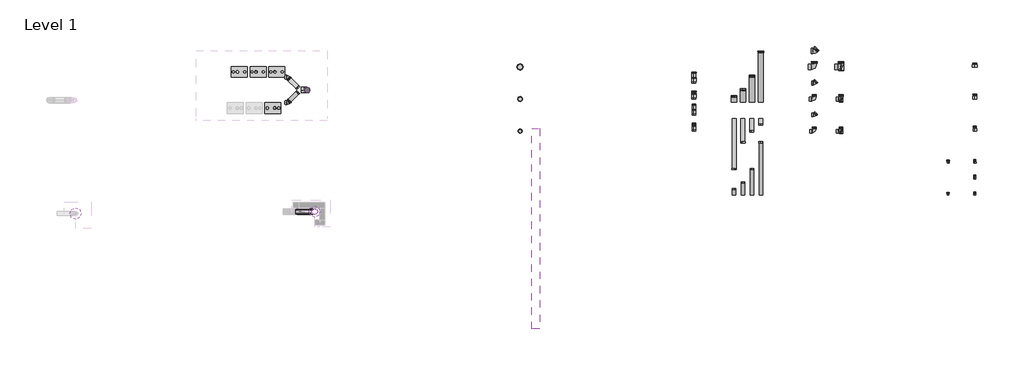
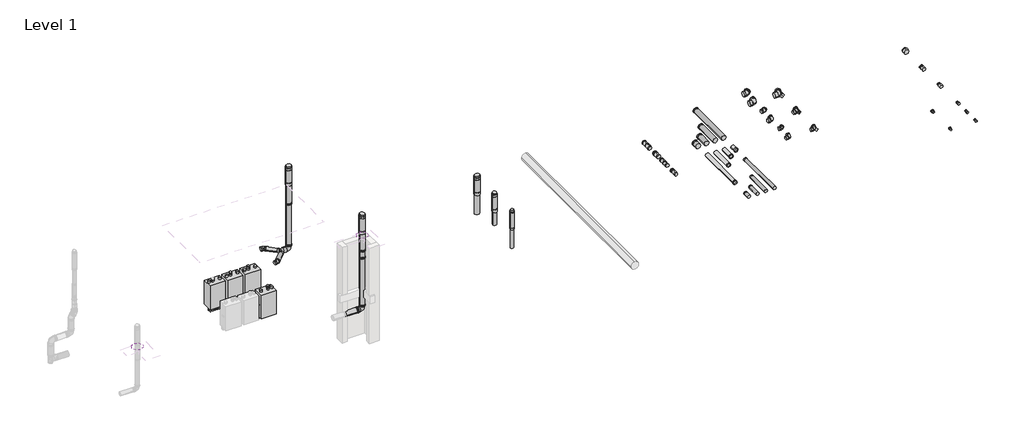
# One storey, part 2 of 2: 43 duct fittings, 5 air terminals, 4 duct segments, 4 unitary equipment elements, 2 coverings.
"""IFC4 building model written with IfcOpenShell, lengths in millimetres."""

from ifc_helpers import new_model, si_unit, point, frame, frame_2d, origin, place, context, project, spatial, circle_curve, ellipse_curve, trimmed, segment, composite_curve, outline, extrude, transform, mapped, element, save
from ifc_brep_helpers import plane_surface, cylinder_surface, advanced_brep
from components import air_terminal_c4a1c7fc, air_terminal_16127070, air_terminal_aa595a08, air_terminal_d551fddf, covering_b4739faa, covering_65d68dae, duct_fitting_874dda1b, duct_fitting_8a0d83d2, duct_fitting_533d9af2, duct_fitting_b8df35ce, duct_fitting_8dfe7da2, duct_fitting_345853f5, duct_fitting_ab07d6e0, duct_fitting_0e4c7d32, duct_fitting_3590a55b, duct_fitting_fbf5378a, duct_fitting_61e90ce6, duct_fitting_113a3a52, duct_fitting_7c9a1def, duct_fitting_1957377e, duct_fitting_2b33db09, duct_fitting_de41c6b8, duct_fitting_32ee2810, duct_fitting_5c795bad, duct_fitting_2964ce86, duct_fitting_6345bc61, duct_fitting_84fb14a7, duct_fitting_6d300570, duct_fitting_58c5740b, duct_fitting_590bbebe, duct_fitting_acd04bb9, duct_fitting_d5854984, duct_fitting_9444e74b, duct_fitting_ad141df4, duct_fitting_7f7e895c, duct_fitting_6e9e7a38, duct_fitting_632ce2a9, duct_fitting_e9746d7f, duct_fitting_a8be000e, duct_fitting_9e2eeb5f, duct_fitting_29f06fc0, duct_fitting_274715c7, duct_fitting_88745d1b, duct_fitting_c2fbb5bf, type_1_50a8d933

model = new_model("IFC4")

# Units and contexts
model_context = context("Model", 3, world=origin())
ifc_project = project(units=[si_unit("LENGTHUNIT", "METRE", prefix="MILLI")], contexts=[model_context])

# Site, building, storey
site = spatial("IfcSite", under=ifc_project)
building = spatial("IfcBuilding", under=site)
storey = spatial("IfcBuildingStorey", under=building, Name="Level 1", Elevation=0.0)

# Air terminals
placement = place(None, origin())
air_terminal_shape = air_terminal_c4a1c7fc(model_context)
element("IfcAirTerminal", 1, ObjectType="RSFen_AIR_WPB_flue gas rooftop terminal_M&G : PP Black, ø130", at=placement, inside=storey, context=model_context, shape_type="MappedRepresentation", body=[
    mapped(air_terminal_shape, transform((16514.6162486, 5619.2351178, 0.0), x_axis=(1.0, 0.0, 0.0), y_axis=(0.0, 1.0, 0.0), z_axis=(0.0, 0.0, 1.0))),
])
air_terminal_2_shape = air_terminal_16127070(model_context)
element("IfcAirTerminal", 2, ObjectType="RSFen_AIR_WPB_flue gas rooftop terminal_M&G : PP Black, ø150", at=placement, inside=storey, context=model_context, shape_type="MappedRepresentation", body=[
    mapped(air_terminal_2_shape, transform((16514.6162486, 6819.2351178, 0.0), x_axis=(1.0, 0.0, 0.0), y_axis=(0.0, 1.0, 0.0), z_axis=(0.0, 0.0, 1.0))),
])
air_terminal_3_shape = air_terminal_aa595a08(model_context)
element("IfcAirTerminal", 3, ObjectType="RSFen_AIR_WPB_flue gas rooftop terminal_M&G : PP Black, ø200", at=placement, inside=storey, context=model_context, shape_type="MappedRepresentation", body=[
    mapped(air_terminal_3_shape, transform((16514.6162486, 8019.2351178, 0.0), x_axis=(1.0, 0.0, 0.0), y_axis=(0.0, 1.0, 0.0), z_axis=(0.0, 0.0, 1.0))),
])
air_terminal_4_shape = air_terminal_d551fddf(model_context)
element("IfcAirTerminal", 4, ObjectType="RSFen_AIR_WPB_flue gas rooftop terminal_M&G : PP Black, ø200", at=placement, inside=storey, context=model_context, shape_type="MappedRepresentation", body=[
    mapped(air_terminal_4_shape, transform((8838.8962129, 2600.9771745, 4345.0), x_axis=(1.0, 0.0, 0.0), y_axis=(0.0, 1.0, 0.0), z_axis=(0.0, 0.0, 1.0))),
])
element("IfcAirTerminal", 5, ObjectType="RSFen_AIR_WPB_flue gas rooftop terminal_M&G : PP Black, ø200", at=placement, inside=storey, context=model_context, shape_type="MappedRepresentation", body=[
    mapped(air_terminal_3_shape, transform((8559.264358, 7157.3674066, 3705.2550343), x_axis=(1.0, 0.0, 0.0), y_axis=(0.0, 1.0, 0.0), z_axis=(0.0, 0.0, 1.0))),
])

# Coverings
covering_shape = covering_b4739faa(model_context)
element("IfcCovering", 6, ObjectType="RSFen_GM_WPB_weather slate flat roof_M&G : ø160", at=placement, inside=storey, context=model_context, shape_type="MappedRepresentation", body=[
    mapped(covering_shape, transform((-100.4372498, 2531.918901, 2750.0), x_axis=(1.0, 0.0, 0.0), y_axis=(0.0, 1.0, 0.0), z_axis=(0.0, 0.0, 1.0))),
])
covering_2_shape = covering_65d68dae(model_context)
element("IfcCovering", 7, ObjectType="RSFen_GM_WPB_weather slate flat roof_M&G : ø204", at=placement, inside=storey, context=model_context, shape_type="MappedRepresentation", body=[
    mapped(covering_2_shape, transform((8838.8962129, 2600.9771745, 4250.0), x_axis=(1.0, 0.0, 0.0), y_axis=(0.0, 1.0, 0.0), z_axis=(0.0, 0.0, 1.0))),
])

# Duct fittings
duct_fitting_shape = duct_fitting_874dda1b(model_context)
element("IfcDuctFitting", 8, ObjectType="RSFen_DUF_UN_Twinline Supportbend_M&G : ø130 - 150 - 200", at=placement, inside=storey, context=model_context, shape_type="MappedRepresentation", body=[
    mapped(duct_fitting_shape, transform((28514.6162486, 5619.2351178, 0.0), x_axis=(1.0, 0.0, 0.0), y_axis=(0.0, 1.0, 0.0), z_axis=(0.0, 0.0, 1.0))),
])
duct_fitting_2_shape = duct_fitting_8a0d83d2(model_context)
element("IfcDuctFitting", 9, ObjectType="RSFen_DUF_UN_Twinline Bend_M&G : ø130 - 150 - 200", at=placement, inside=storey, context=model_context, shape_type="MappedRepresentation", body=[
    mapped(duct_fitting_2_shape, transform((27514.6162486, 5619.2351178, 0.0), x_axis=(1.0, 0.0, 0.0), y_axis=(0.0, 1.0, 0.0), z_axis=(0.0, 0.0, 1.0))),
])
duct_fitting_3_shape = duct_fitting_533d9af2(model_context)
element("IfcDuctFitting", 10, ObjectType="RSFen_DUF_UN_Twinline Expander_M&G : ø60-80-100-130-150-200", at=placement, inside=storey, context=model_context, shape_type="MappedRepresentation", body=[
    mapped(duct_fitting_3_shape, transform((32514.6162486, 4419.2351178, 0.0), x_axis=(0.0, 1.0, 0.0), y_axis=(-1.0, 0.0, 0.0), z_axis=(0.0, 0.0, 1.0))),
])
duct_fitting_4_shape = duct_fitting_b8df35ce(model_context)
element("IfcDuctFitting", 11, ObjectType="RSFen_DUF_UN_Twinline Reducer_M&G : ø080-100-150-200", at=placement, inside=storey, context=model_context, shape_type="MappedRepresentation", body=[
    mapped(duct_fitting_4_shape, transform((33514.6162486, 5619.2351178, 0.0), x_axis=(0.0, 1.0, 0.0), y_axis=(-1.0, 0.0, 0.0), z_axis=(0.0, 0.0, 1.0))),
])
duct_fitting_5_shape = duct_fitting_8dfe7da2(model_context)
element("IfcDuctFitting", 12, ObjectType="RSFen_DUF_UN_Twinline Extension_M&G : ø130-150-200", at=placement, inside=storey, context=model_context, shape_type="MappedRepresentation", body=[
    mapped(duct_fitting_5_shape, transform((24847.9495819, 6704.2351178, 0.0), x_axis=(0.0, 1.0, 0.0), y_axis=(-1.0, 0.0, 0.0), z_axis=(0.0, 0.0, 1.0))),
])
duct_fitting_6_shape = duct_fitting_345853f5(model_context)
element("IfcDuctFitting", 13, ObjectType="RSFen_DUF_UN_Twinline Bend_M&G : ø130 - 150 - 200", at=placement, inside=storey, context=model_context, shape_type="MappedRepresentation", body=[
    mapped(duct_fitting_6_shape, transform((8838.8962129, 2600.9771745, 1178.3755805), x_axis=(1.0, 0.0, 0.0), y_axis=(0.0, 0.0, 1.0), z_axis=(0.0, -1.0, 0.0))),
])
element("IfcDuctFitting", 14, ObjectType="RSFen_DUF_UN_Twinline Bend_M&G : ø130 - 150 - 200", at=placement, inside=storey, context=model_context, shape_type="MappedRepresentation", body=[
    mapped(duct_fitting_6_shape, transform((27514.6162486, 8019.2351178, 0.0), x_axis=(1.0, 0.0, 0.0), y_axis=(0.0, 1.0, 0.0), z_axis=(0.0, 0.0, 1.0))),
])
duct_fitting_7_shape = duct_fitting_ab07d6e0(model_context)
element("IfcDuctFitting", 15, ObjectType="RSFen_DUF_UN_Twinline Bend_M&G : ø130 - 150 - 200", at=placement, inside=storey, context=model_context, shape_type="MappedRepresentation", body=[
    mapped(duct_fitting_7_shape, transform((27514.6162486, 8619.2351178, 0.0), x_axis=(1.0, 0.0, 0.0), y_axis=(0.0, 1.0, 0.0), z_axis=(0.0, 0.0, 1.0))),
])
duct_fitting_8_shape = duct_fitting_0e4c7d32(model_context)
element("IfcDuctFitting", 16, ObjectType="RSFen_DUF_UN_Twinline Bend_M&G : ø130 - 150 - 200", at=placement, inside=storey, context=model_context, shape_type="MappedRepresentation", body=[
    mapped(duct_fitting_8_shape, transform((27514.6162486, 6819.2351178, 0.0), x_axis=(1.0, 0.0, 0.0), y_axis=(0.0, 1.0, 0.0), z_axis=(0.0, 0.0, 1.0))),
])
duct_fitting_9_shape = duct_fitting_3590a55b(model_context)
element("IfcDuctFitting", 17, ObjectType="RSFen_DUF_UN_Twinline Extension_M&G : ø130-150-200", at=placement, inside=storey, context=model_context, shape_type="MappedRepresentation", body=[
    mapped(duct_fitting_9_shape, transform((8106.8962129, 2600.9771745, 1178.3755805), x_axis=(1.0, 0.0, 0.0), y_axis=(0.0, 1.0, 0.0), z_axis=(0.0, 0.0, 1.0))),
])
duct_fitting_10_shape = duct_fitting_fbf5378a(model_context)
element("IfcDuctFitting", 18, ObjectType="RSFen_DUF_UN_Twinline Extension_M&G : ø130-150-200", at=placement, inside=storey, context=model_context, shape_type="MappedRepresentation", body=[
    mapped(duct_fitting_10_shape, transform((8838.8962129, 2600.9771745, 1313.3755805), x_axis=(0.0, 0.0, 1.0), y_axis=(-1.0, 0.0, 0.0), z_axis=(0.0, -1.0, 0.0))),
])
duct_fitting_11_shape = duct_fitting_61e90ce6(model_context)
element("IfcDuctFitting", 19, ObjectType="RSFen_DUF_UN_Twinline Extension_M&G : ø130-150-200", at=placement, inside=storey, context=model_context, shape_type="MappedRepresentation", body=[
    mapped(duct_fitting_11_shape, transform((8838.8962129, 2600.9771745, 3313.3755805), x_axis=(0.0, 0.0, 1.0), y_axis=(-1.0, 0.0, 0.0), z_axis=(0.0, -1.0, 0.0))),
])
duct_fitting_12_shape = duct_fitting_113a3a52(model_context)
element("IfcDuctFitting", 20, ObjectType="RSFen_DUF_UN_Twinline Bend_M&G : ø130 - 150 - 200", at=placement, inside=storey, context=model_context, shape_type="MappedRepresentation", body=[
    mapped(duct_fitting_12_shape, transform((7827.1421086, 7630.1390005, 996.9267508), x_axis=(0.9997985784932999, 0.0, 0.020069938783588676), y_axis=(0.0, -1.0000000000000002, 0.0), z_axis=(0.020069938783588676, 0.0, -0.9997985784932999))),
])
element("IfcDuctFitting", 21, ObjectType="RSFen_DUF_UN_Twinline Bend_M&G : ø130 - 150 - 200", at=placement, inside=storey, context=model_context, shape_type="MappedRepresentation", body=[
    mapped(duct_fitting_12_shape, transform((27514.6162486, 7419.2351178, 0.0), x_axis=(1.0, 0.0, 0.0), y_axis=(0.0, 1.0, 0.0), z_axis=(0.0, 0.0, 1.0))),
])
element("IfcDuctFitting", 22, ObjectType="RSFen_DUF_UN_Twinline Bend_M&G : ø130 - 150 - 200", at=placement, inside=storey, context=model_context, shape_type="MappedRepresentation", body=[
    mapped(duct_fitting_12_shape, transform((7827.1421086, 6684.5958127, 996.9267508), x_axis=(0.9997985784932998, 0.0, 0.020069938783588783), y_axis=(0.0, 1.0, 0.0), z_axis=(-0.020069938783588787, 0.0, 0.9997985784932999))),
])
duct_fitting_13_shape = duct_fitting_7c9a1def(model_context)
element("IfcDuctFitting", 23, ObjectType="RSFen_DUF_UN_Twinline Extension_M&G : ø130-150-200", at=placement, inside=storey, context=model_context, shape_type="MappedRepresentation", body=[
    mapped(duct_fitting_13_shape, transform((7871.6808629, 6729.14354, 997.8208209), x_axis=(0.7069643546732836, 0.707106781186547, 0.014191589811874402), y_axis=(-0.7069643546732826, 0.7071067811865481, -0.01419158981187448), z_axis=(-0.020069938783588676, 0.0, 0.9997985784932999))),
])
element("IfcDuctFitting", 24, ObjectType="RSFen_DUF_UN_Twinline Extension_M&G : ø130-150-200", at=placement, inside=storey, context=model_context, shape_type="MappedRepresentation", body=[
    mapped(duct_fitting_13_shape, transform((25181.2829153, 6089.2351058, 0.0), x_axis=(0.0, -1.0, 0.0), y_axis=(1.0, 0.0, 0.0), z_axis=(0.0, 0.0, 1.0))),
])
element("IfcDuctFitting", 25, ObjectType="RSFen_DUF_UN_Twinline Extension_M&G : ø130-150-200", at=placement, inside=storey, context=model_context, shape_type="MappedRepresentation", body=[
    mapped(duct_fitting_13_shape, transform((7871.6808629, 7585.5912733, 997.8208209), x_axis=(0.7069643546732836, -0.707106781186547, 0.014191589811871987), y_axis=(-0.7069643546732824, -0.7071067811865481, -0.014191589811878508), z_axis=(0.020069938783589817, 0.0, -0.9997985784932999))),
])
duct_fitting_14_shape = duct_fitting_1957377e(model_context)
element("IfcDuctFitting", 26, ObjectType="RSFen_DUF_UN_Twinline Extension_M&G : ø130-150-200", at=placement, inside=storey, context=model_context, shape_type="MappedRepresentation", body=[
    mapped(duct_fitting_14_shape, transform((8559.264358, 7157.3674066, 1171.6283963), x_axis=(0.0, 0.0, 1.0), y_axis=(-1.0, 0.0, 0.0), z_axis=(0.0, -1.0, 0.0))),
])
duct_fitting_15_shape = duct_fitting_2b33db09(model_context)
element("IfcDuctFitting", 27, ObjectType="RSFen_DUF_UN_Twinline Bend_M&G : ø130 - 150 - 200", at=placement, inside=storey, context=model_context, shape_type="MappedRepresentation", body=[
    mapped(duct_fitting_15_shape, transform((8559.264358, 7157.3674066, 1036.6283963), x_axis=(0.9997985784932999, 0.0, 0.020069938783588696), y_axis=(-0.020069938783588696, 0.0, 0.9997985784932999), z_axis=(0.0, -1.0, 0.0))),
])
duct_fitting_16_shape = duct_fitting_de41c6b8(model_context)
element("IfcDuctFitting", 28, ObjectType="RSFen_DUF_UN_Twinline Adjuster_M&G : ø130-150", at=placement, inside=storey, context=model_context, shape_type="MappedRepresentation", body=[
    mapped(duct_fitting_16_shape, transform((23014.6162486, 5619.2351178, 0.0), x_axis=(0.0, 1.0, 0.0), y_axis=(-1.0, 0.0, 0.0), z_axis=(0.0, 0.0, 1.0))),
])
duct_fitting_17_shape = duct_fitting_32ee2810(model_context)
element("IfcDuctFitting", 29, ObjectType="RSFen_DUF_UN_Twinline Expander_M&G : ø60-80-100-130-150-200", at=placement, inside=storey, context=model_context, shape_type="MappedRepresentation", body=[
    mapped(duct_fitting_17_shape, transform((32514.6162486, 3219.2351178, 0.0), x_axis=(0.0, 1.0, 0.0), y_axis=(-1.0, 0.0, 0.0), z_axis=(0.0, 0.0, 1.0))),
])
duct_fitting_18_shape = duct_fitting_5c795bad(model_context)
element("IfcDuctFitting", 30, ObjectType="RSFen_DUF_UN_Twinline Reducer_M&G : ø080-100-150-200", at=placement, inside=storey, context=model_context, shape_type="MappedRepresentation", body=[
    mapped(duct_fitting_18_shape, transform((33514.6162486, 3219.2351178, 0.0), x_axis=(0.0, 1.0, 0.0), y_axis=(-1.0, 0.0, 0.0), z_axis=(0.0, 0.0, 1.0))),
])
duct_fitting_19_shape = duct_fitting_2964ce86(model_context)
element("IfcDuctFitting", 31, ObjectType="RSFen_DUF_UN_Twinline Reducer_M&G : ø080-100-150-200", at=placement, inside=storey, context=model_context, shape_type="MappedRepresentation", body=[
    mapped(duct_fitting_19_shape, transform((33514.6162486, 4419.2351178, 0.0), x_axis=(0.0, 1.0, 0.0), y_axis=(-1.0, 0.0, 0.0), z_axis=(0.0, 0.0, 1.0))),
])
duct_fitting_20_shape = duct_fitting_6345bc61(model_context)
element("IfcDuctFitting", 32, ObjectType="RSFen_DUF_UN_Twinline Reducer_M&G : ø080-100-150-200", at=placement, inside=storey, context=model_context, shape_type="MappedRepresentation", body=[
    mapped(duct_fitting_20_shape, transform((33514.6162486, 6819.2351178, 0.0), x_axis=(0.0, 1.0, 0.0), y_axis=(-1.0, 0.0, 0.0), z_axis=(0.0, 0.0, 1.0))),
])
duct_fitting_21_shape = duct_fitting_84fb14a7(model_context)
element("IfcDuctFitting", 33, ObjectType="RSFen_DUF_UN_Twinline Reducer_M&G : ø080-100-150-200", at=placement, inside=storey, context=model_context, shape_type="MappedRepresentation", body=[
    mapped(duct_fitting_21_shape, transform((33514.6162486, 8019.2351178, 0.0), x_axis=(0.0, 1.0, 0.0), y_axis=(-1.0, 0.0, 0.0), z_axis=(0.0, 0.0, 1.0))),
])
duct_fitting_22_shape = duct_fitting_6d300570(model_context)
element("IfcDuctFitting", 34, ObjectType="RSFen_DUF_UN_Twinline Reducer_M&G : ø080-100-150-200", at=placement, inside=storey, context=model_context, shape_type="MappedRepresentation", body=[
    mapped(duct_fitting_22_shape, transform((33514.6162486, 3819.2351178, 0.0), x_axis=(0.0, 1.0, 0.0), y_axis=(-1.0, 0.0, 0.0), z_axis=(0.0, 0.0, 1.0))),
])
duct_fitting_23_shape = duct_fitting_58c5740b(model_context)
element("IfcDuctFitting", 35, ObjectType="RSFen_DUF_UN_Twinline Extension_M&G : ø130-150-200", at=placement, inside=storey, context=model_context, shape_type="MappedRepresentation", body=[
    mapped(duct_fitting_23_shape, transform((24847.9495819, 3219.2351178, 0.0), x_axis=(0.0, 1.0, 0.0), y_axis=(-1.0, 0.0, 0.0), z_axis=(0.0, 0.0, 1.0))),
])
duct_fitting_24_shape = duct_fitting_590bbebe(model_context)
element("IfcDuctFitting", 36, ObjectType="RSFen_DUF_UN_Twinline Extension_M&G : ø130-150-200", at=placement, inside=storey, context=model_context, shape_type="MappedRepresentation", body=[
    mapped(duct_fitting_24_shape, transform((24514.6162486, 3219.2351178, 0.0), x_axis=(0.0, 1.0, 0.0), y_axis=(-1.0, 0.0, 0.0), z_axis=(0.0, 0.0, 1.0))),
])
duct_fitting_25_shape = duct_fitting_acd04bb9(model_context)
element("IfcDuctFitting", 37, ObjectType="RSFen_DUF_UN_Twinline Extension_M&G : ø130-150-200", at=placement, inside=storey, context=model_context, shape_type="MappedRepresentation", body=[
    mapped(duct_fitting_25_shape, transform((25181.2829153, 3219.2351178, 0.0), x_axis=(0.0, 1.0, 0.0), y_axis=(-1.0, 0.0, 0.0), z_axis=(0.0, 0.0, 1.0))),
])
duct_fitting_26_shape = duct_fitting_d5854984(model_context)
element("IfcDuctFitting", 38, ObjectType="RSFen_DUF_UN_Twinline Extension_M&G : ø130-150-200", at=placement, inside=storey, context=model_context, shape_type="MappedRepresentation", body=[
    mapped(duct_fitting_26_shape, transform((25514.6162486, 3219.2351178, 0.0), x_axis=(0.0, 1.0, 0.0), y_axis=(-1.0, 0.0, 0.0), z_axis=(0.0, 0.0, 1.0))),
])
duct_fitting_27_shape = duct_fitting_9444e74b(model_context)
element("IfcDuctFitting", 39, ObjectType="RSFen_DUF_UN_Twinline Extension_M&G : ø130-150-200", at=placement, inside=storey, context=model_context, shape_type="MappedRepresentation", body=[
    mapped(duct_fitting_27_shape, transform((24847.9495819, 6089.2351058, 0.0), x_axis=(0.0, -1.0, 0.0), y_axis=(1.0, 0.0, 0.0), z_axis=(0.0, 0.0, 1.0))),
])
duct_fitting_28_shape = duct_fitting_ad141df4(model_context)
element("IfcDuctFitting", 40, ObjectType="RSFen_DUF_UN_Twinline Extension_M&G : ø130-150-200", at=placement, inside=storey, context=model_context, shape_type="MappedRepresentation", body=[
    mapped(duct_fitting_28_shape, transform((24514.6162486, 6089.2351058, 0.0), x_axis=(0.0, -1.0, 0.0), y_axis=(1.0, 0.0, 0.0), z_axis=(0.0, 0.0, 1.0))),
])
duct_fitting_29_shape = duct_fitting_7f7e895c(model_context)
element("IfcDuctFitting", 41, ObjectType="RSFen_DUF_UN_Twinline Extension_M&G : ø130-150-200", at=placement, inside=storey, context=model_context, shape_type="MappedRepresentation", body=[
    mapped(duct_fitting_29_shape, transform((24514.6162486, 6704.2351178, 0.0), x_axis=(0.0, 1.0, 0.0), y_axis=(-1.0, 0.0, 0.0), z_axis=(0.0, 0.0, 1.0))),
])
duct_fitting_30_shape = duct_fitting_6e9e7a38(model_context)
element("IfcDuctFitting", 42, ObjectType="RSFen_DUF_UN_Twinline Extension_M&G : ø130-150-200", at=placement, inside=storey, context=model_context, shape_type="MappedRepresentation", body=[
    mapped(duct_fitting_30_shape, transform((25181.2829153, 6704.2351178, 0.0), x_axis=(0.0, 1.0, 0.0), y_axis=(-1.0, 0.0, 0.0), z_axis=(0.0, 0.0, 1.0))),
])
duct_fitting_31_shape = duct_fitting_632ce2a9(model_context)
element("IfcDuctFitting", 43, ObjectType="RSFen_DUF_UN_Twinline Extension_M&G : ø130-150-200", at=placement, inside=storey, context=model_context, shape_type="MappedRepresentation", body=[
    mapped(duct_fitting_31_shape, transform((25514.6162486, 6704.2351178, 0.0), x_axis=(0.0, 1.0, 0.0), y_axis=(-1.0, 0.0, 0.0), z_axis=(0.0, 0.0, 1.0))),
])
duct_fitting_32_shape = duct_fitting_e9746d7f(model_context)
element("IfcDuctFitting", 44, ObjectType="RSFen_DUF_UN_Twinline Extension_M&G : ø130-150-200", at=placement, inside=storey, context=model_context, shape_type="MappedRepresentation", body=[
    mapped(duct_fitting_32_shape, transform((25514.6162486, 6089.2351058, 0.0), x_axis=(0.0, -1.0, 0.0), y_axis=(1.0, 0.0, 0.0), z_axis=(0.0, 0.0, 1.0))),
])
duct_fitting_33_shape = duct_fitting_a8be000e(model_context)
element("IfcDuctFitting", 45, ObjectType="RSFen_DUF_UN_Twinline Bend_M&G : ø130 - 150 - 200", at=placement, inside=storey, context=model_context, shape_type="MappedRepresentation", body=[
    mapped(duct_fitting_33_shape, transform((27514.6162486, 6219.2351178, 0.0), x_axis=(1.0, 0.0, 0.0), y_axis=(0.0, 1.0, 0.0), z_axis=(0.0, 0.0, 1.0))),
])
duct_fitting_34_shape = duct_fitting_9e2eeb5f(model_context)
element("IfcDuctFitting", 46, ObjectType="RSFen_DUF_UN_Twinline Supportbend_M&G : ø130 - 150 - 200", at=placement, inside=storey, context=model_context, shape_type="MappedRepresentation", body=[
    mapped(duct_fitting_34_shape, transform((28514.6162486, 6819.2351178, 0.0), x_axis=(1.0, 0.0, 0.0), y_axis=(0.0, 1.0, 0.0), z_axis=(0.0, 0.0, 1.0))),
])
duct_fitting_35_shape = duct_fitting_29f06fc0(model_context)
element("IfcDuctFitting", 47, ObjectType="RSFen_DUF_UN_Twinline Supportbend_M&G : ø130 - 150 - 200", at=placement, inside=storey, context=model_context, shape_type="MappedRepresentation", body=[
    mapped(duct_fitting_35_shape, transform((28514.6162486, 8019.2351178, 0.0), x_axis=(1.0, 0.0, 0.0), y_axis=(0.0, 1.0, 0.0), z_axis=(0.0, 0.0, 1.0))),
])
duct_fitting_36_shape = duct_fitting_274715c7(model_context)
element("IfcDuctFitting", 48, ObjectType="RSFen_DUF_UN_Twinline Adjuster_M&G : ø130-150", at=placement, inside=storey, context=model_context, shape_type="MappedRepresentation", body=[
    mapped(duct_fitting_36_shape, transform((23014.6162486, 6219.2351178, 0.0), x_axis=(0.0, 1.0, 0.0), y_axis=(-1.0, 0.0, 0.0), z_axis=(0.0, 0.0, 1.0))),
])
duct_fitting_37_shape = duct_fitting_88745d1b(model_context)
element("IfcDuctFitting", 49, ObjectType="RSFen_DUF_UN_Twinline Adjuster_M&G : ø130-150", at=placement, inside=storey, context=model_context, shape_type="MappedRepresentation", body=[
    mapped(duct_fitting_37_shape, transform((23014.6162486, 6819.2351178, 0.0), x_axis=(0.0, 1.0, 0.0), y_axis=(-1.0, 0.0, 0.0), z_axis=(0.0, 0.0, 1.0))),
])
duct_fitting_38_shape = duct_fitting_c2fbb5bf(model_context)
element("IfcDuctFitting", 50, ObjectType="RSFen_DUF_UN_Twinline Adjuster_M&G : ø130-150", at=placement, inside=storey, context=model_context, shape_type="MappedRepresentation", body=[
    mapped(duct_fitting_38_shape, transform((23014.6162486, 7419.2351178, 0.0), x_axis=(0.0, 1.0, 0.0), y_axis=(-1.0, 0.0, 0.0), z_axis=(0.0, 0.0, 1.0))),
])

# Duct segments
element("IfcDuctSegment", 51, ObjectType="Twinline Design config", at=placement, inside=storey, context=model_context, shape_type="SweptSolid", body=[
    extrude(outline(composite_curve([segment(trimmed(circle_curve(frame_2d((2743.2, 17104.6560223)), 152.5), [point((2743.2, 17257.1560223))], [point((2895.7, 17104.6560223))], False, "CARTESIAN"), True, "CONTINUOUS"), segment(trimmed(circle_curve(frame_2d((2743.2, 17104.6560223)), 152.5), [point((2895.7, 17104.6560223))], [point((2743.2, 16952.1560223))], False, "CARTESIAN"), True, "CONTINUOUS"), segment(trimmed(circle_curve(frame_2d((2743.2, 17104.6560223)), 152.5), [point((2743.2, 16952.1560223))], [point((2590.7, 17104.6560223))], False, "CARTESIAN"), True, "CONTINUOUS"), segment(trimmed(circle_curve(frame_2d((2743.2, 17104.6560223)), 152.5), [point((2590.7, 17104.6560223))], [point((2743.2, 17257.1560223))], False, "CARTESIAN"), True, "CONTINUOUS")], self_intersect=False)), frame((0.0, -1790.7251086, 0.0), z_axis=(0.0, 1.0, 0.0), x_axis=(0.0, 0.0, 1.0)), (0.0, 0.0, 1.0), 7500.0),
])
element("IfcDuctSegment", 52, ObjectType="Flex - Round", at=placement, inside=storey, context=model_context, shape_type="AdvancedBrep", body=[
    advanced_brep(
    [(7397.5915742, 7826.4563666, 225.0), (7339.5056924, 7786.1324652, 224.8846446), (7299.1816363, 7844.2182397, 225.0), (7357.2675181, 7884.5421411, 225.1153554), (7397.573994, 7826.3589632, 267.9008687), (7339.4881571, 7786.0353109, 267.6757795), (7299.1640561, 7844.1208362, 267.9008687), (7357.249893, 7884.4444885, 268.1259579), (7397.5229671, 7826.0762482, 310.8009108), (7357.1987356, 7884.1610504, 311.1357316), (7299.1130293, 7843.8381212, 310.8009108), (7339.4372608, 7785.753319, 310.46609)],
    [
        (0, 1, circle_curve(frame((7348.3866052, 7835.3373031, 225.0), z_axis=(0.0004097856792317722, 0.0022704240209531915, -0.9999973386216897), x_axis=(0.9840993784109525, -0.17761873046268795, 0.0)), 50.0)),
        (1, 2, circle_curve(frame((7348.3866052, 7835.3373031, 225.0), z_axis=(0.0004097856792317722, 0.0022704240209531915, -0.9999973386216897), x_axis=(0.9840993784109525, -0.17761873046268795, 0.0)), 50.0)),
        (2, 3, circle_curve(frame((7348.3866052, 7835.3373031, 225.0), z_axis=(0.0004097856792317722, 0.0022704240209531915, -0.9999973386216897), x_axis=(0.9840993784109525, -0.17761873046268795, 0.0)), 50.0)),
        (3, 0, circle_curve(frame((7348.3866052, 7835.3373031, 225.0), z_axis=(0.0004097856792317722, 0.0022704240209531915, -0.9999973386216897), x_axis=(0.9840993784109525, -0.17761873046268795, 0.0)), 50.0)),
        (0, 4),
        (4, 5, ellipse_curve(frame((7348.369025, 7835.2398997, 267.9008687), z_axis=(0.0007995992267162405, 0.004430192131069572, -0.9999898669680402), x_axis=(-0.1776169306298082, -0.9840894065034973, -0.00450177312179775)), 50.0001204, 50.0)),
        (5, 1),
        (5, 6, ellipse_curve(frame((7348.369025, 7835.2398997, 267.9008687), z_axis=(0.0007995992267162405, 0.004430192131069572, -0.9999898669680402), x_axis=(-0.1776169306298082, -0.9840894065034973, -0.00450177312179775)), 50.0001204, 50.0)),
        (6, 2),
        (6, 7, ellipse_curve(frame((7348.369025, 7835.2398997, 267.9008687), z_axis=(0.0007995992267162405, 0.004430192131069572, -0.9999898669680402), x_axis=(-0.1776169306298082, -0.9840894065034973, -0.00450177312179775)), 50.0001204, 50.0)),
        (7, 3),
        (7, 4, ellipse_curve(frame((7348.369025, 7835.2398997, 267.9008687), z_axis=(0.0007995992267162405, 0.004430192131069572, -0.9999898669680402), x_axis=(-0.1776169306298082, -0.9840894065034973, -0.00450177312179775)), 50.0001204, 50.0)),
        (8, 9, circle_curve(frame((7348.3179982, 7834.9571847, 310.8009108), z_axis=(-0.0011894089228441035, -0.0065899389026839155, 0.9999775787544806), x_axis=(0.9840993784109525, -0.1776187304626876, 0.0)), 50.0)),
        (9, 10, circle_curve(frame((7348.3179982, 7834.9571847, 310.8009108), z_axis=(-0.0011894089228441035, -0.0065899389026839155, 0.9999775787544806), x_axis=(0.9840993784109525, -0.1776187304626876, 0.0)), 50.0)),
        (10, 11, circle_curve(frame((7348.3179982, 7834.9571847, 310.8009108), z_axis=(-0.0011894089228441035, -0.0065899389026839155, 0.9999775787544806), x_axis=(0.9840993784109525, -0.1776187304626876, 0.0)), 50.0)),
        (11, 8, circle_curve(frame((7348.3179982, 7834.9571847, 310.8009108), z_axis=(-0.0011894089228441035, -0.0065899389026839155, 0.9999775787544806), x_axis=(0.9840993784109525, -0.1776187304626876, 0.0)), 50.0)),
        (4, 8),
        (11, 5),
        (10, 6),
        (9, 7),
    ],
    [
        plane_surface(frame((7348.3866052, 7785.337432, 224.8864788), z_axis=(0.0004097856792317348, 0.0022704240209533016, -0.9999973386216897), x_axis=(0.9999999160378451, -9.303873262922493e-07, 0.0004097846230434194))),
        cylinder_surface(frame((7348.3866052, 7835.3373031, 225.0), z_axis=(0.0004097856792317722, 0.0022704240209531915, -0.9999973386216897), x_axis=(0.9840993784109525, -0.17761873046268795, 0.0)), 50.0),
        plane_surface(frame((7348.3179982, 7784.9582704, 310.4714136), z_axis=(-0.0011894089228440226, -0.0065899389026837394, 0.9999775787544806), x_axis=(0.9999992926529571, -7.838137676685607e-06, 0.001189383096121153))),
        cylinder_surface(frame((7348.369025, 7835.2398997, 267.9008687), z_axis=(0.0011894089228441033, 0.006589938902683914, -0.9999775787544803), x_axis=(0.9840993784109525, -0.1776187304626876, 0.0)), 50.0),
    ],
    [
        (0, [[1, 2, 3, 4]]),
        (1, [[-1, 5, 6, 7]]),
        (1, [[-2, -7, 8, 9]]),
        (1, [[-3, -9, 10, 11]]),
        (1, [[-4, -11, 12, -5]]),
        (2, [[13, 14, 15, 16]]),
        (3, [[-6, 17, -16, 18]]),
        (3, [[-8, -18, -15, 19]]),
        (3, [[-10, -19, -14, 20]]),
        (3, [[-12, -20, -13, -17]]),
    ],
),
])
element("IfcDuctSegment", 53, ObjectType="Flex - Round", at=placement, inside=storey, context=model_context, shape_type="AdvancedBrep", body=[
    advanced_brep(
    [(6697.1906484, 7823.7982417, 225.0), (6637.0013637, 7786.6872729, 224.8387557), (6599.8900819, 7846.8763646, 225.0), (6660.0793666, 7883.9873334, 225.1612443), (6697.163952, 7823.6856859, 260.8703653), (6636.9747444, 7786.5750422, 260.6055066), (6599.8633766, 7846.7637715, 260.8822796), (6660.0525842, 7883.8744152, 261.1471383), (6697.10929, 7823.4181864, 296.7400396), (6659.9977462, 7883.6060541, 297.1323386), (6599.8086965, 7846.4961831, 296.7638678), (6636.9202403, 7786.3083154, 296.3715688)],
    [
        (0, 1, circle_curve(frame((6648.5403652, 7835.3373031, 225.0), z_axis=(0.0007442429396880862, 0.003137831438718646, -0.9999948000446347), x_axis=(0.9730056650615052, -0.23078122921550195, 0.0)), 50.0)),
        (1, 2, circle_curve(frame((6648.5403652, 7835.3373031, 225.0), z_axis=(0.0007442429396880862, 0.003137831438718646, -0.9999948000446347), x_axis=(0.9730056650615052, -0.23078122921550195, 0.0)), 50.0)),
        (2, 3, circle_curve(frame((6648.5403652, 7835.3373031, 225.0), z_axis=(0.0007442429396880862, 0.003137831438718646, -0.9999948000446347), x_axis=(0.9730056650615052, -0.23078122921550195, 0.0)), 50.0)),
        (3, 0, circle_curve(frame((6648.5403652, 7835.3373031, 225.0), z_axis=(0.0007442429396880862, 0.003137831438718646, -0.9999948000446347), x_axis=(0.9730056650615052, -0.23078122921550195, 0.0)), 50.0)),
        (0, 4),
        (4, 5, ellipse_curve(frame((6648.5136643, 7835.2247287, 260.8763224), z_axis=(0.001134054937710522, 0.005297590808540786, -0.9999853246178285), x_axis=(-0.1776159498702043, -0.9840849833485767, -0.005414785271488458)), 50.0001204, 50.0)),
        (5, 1),
        (5, 6, ellipse_curve(frame((6648.5136643, 7835.2247287, 260.8763224), z_axis=(0.001134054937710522, 0.005297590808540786, -0.9999853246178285), x_axis=(-0.1776159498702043, -0.9840849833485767, -0.005414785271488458)), 50.0001204, 50.0)),
        (6, 2),
        (6, 7, ellipse_curve(frame((6648.5136643, 7835.2247287, 260.8763224), z_axis=(0.001134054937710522, 0.005297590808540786, -0.9999853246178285), x_axis=(-0.1776159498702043, -0.9840849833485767, -0.005414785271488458)), 50.0001204, 50.0)),
        (7, 3),
        (7, 4, ellipse_curve(frame((6648.5136643, 7835.2247287, 260.8763224), z_axis=(0.001134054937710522, 0.005297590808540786, -0.9999853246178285), x_axis=(-0.1776159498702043, -0.9840849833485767, -0.005414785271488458)), 50.0001204, 50.0)),
        (8, 9, circle_curve(frame((6648.4589933, 7834.9571847, 296.7519537), z_axis=(-0.0015238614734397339, -0.007457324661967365, 0.9999710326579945), x_axis=(0.973005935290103, -0.230779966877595, -0.00023828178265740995)), 50.0)),
        (9, 10, circle_curve(frame((6648.4589933, 7834.9571847, 296.7519537), z_axis=(-0.0015238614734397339, -0.007457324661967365, 0.9999710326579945), x_axis=(0.973005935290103, -0.230779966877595, -0.00023828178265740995)), 50.0)),
        (10, 11, circle_curve(frame((6648.4589933, 7834.9571847, 296.7519537), z_axis=(-0.0015238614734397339, -0.007457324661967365, 0.9999710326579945), x_axis=(0.973005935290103, -0.230779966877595, -0.00023828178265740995)), 50.0)),
        (11, 8, circle_curve(frame((6648.4589933, 7834.9571847, 296.7519537), z_axis=(-0.0015238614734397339, -0.007457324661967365, 0.9999710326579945), x_axis=(0.973005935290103, -0.230779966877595, -0.00023828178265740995)), 50.0)),
        (4, 8),
        (11, 5),
        (10, 6),
        (9, 7),
    ],
    [
        plane_surface(frame((6648.5403652, 7785.3375493, 224.8431084), z_axis=(0.0007442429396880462, 0.0031378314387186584, -0.9999948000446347), x_axis=(0.999999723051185, -2.335309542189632e-06, 0.0007442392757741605))),
        cylinder_surface(frame((6648.5403652, 7835.3373031, 225.0), z_axis=(0.0007442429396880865, 0.0031378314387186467, -0.9999948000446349), x_axis=(0.9730056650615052, -0.23078122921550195, 0.0)), 50.0),
        plane_surface(frame((6648.4589933, 7784.958575, 296.379087), z_axis=(-0.001523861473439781, -0.007457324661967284, 0.9999710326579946), x_axis=(0.9999988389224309, -1.1363942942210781e-05, 0.0015238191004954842))),
        cylinder_surface(frame((6648.5136643, 7835.2247287, 260.8763224), z_axis=(0.0015238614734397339, 0.007457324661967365, -0.9999710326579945), x_axis=(0.973005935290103, -0.230779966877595, -0.00023828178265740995)), 50.0),
    ],
    [
        (0, [[1, 2, 3, 4]]),
        (1, [[-1, 5, 6, 7]]),
        (1, [[-2, -7, 8, 9]]),
        (1, [[-3, -9, 10, 11]]),
        (1, [[-4, -11, 12, -5]]),
        (2, [[13, 14, 15, 16]]),
        (3, [[-6, 17, -16, 18]]),
        (3, [[-8, -18, -15, 19]]),
        (3, [[-10, -19, -14, 20]]),
        (3, [[-12, -20, -13, -17]]),
    ],
),
])
element("IfcDuctSegment", 54, ObjectType="Flex - Round", at=placement, inside=storey, context=model_context, shape_type="AdvancedBrep", body=[
    advanced_brep(
    [(7328.6492295, 6434.6570805, 225.0), (7300.1556977, 6499.372701, 224.9157539), (7364.8712778, 6527.8663247, 225.0), (7393.3648097, 6463.1507041, 225.0842461), (7328.5817089, 6434.6833197, 267.9929269), (7300.0881962, 6499.3989894, 267.9086808), (7364.803708, 6527.892583, 267.9929268), (7393.2972699, 6463.1768942, 268.0771731), (7328.5335153, 6434.8425479, 311.1374695), (7393.249253, 6463.335919, 311.104395), (7364.755972, 6528.0511375, 310.8334017), (7300.0402343, 6499.5577664, 310.8664762)],
    [
        (0, 1, circle_curve(frame((7346.7602537, 6481.2617026, 225.0), z_axis=(0.001570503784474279, -0.0006103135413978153, -0.9999985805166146), x_axis=(-0.3622204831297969, -0.9320924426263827, 0.0)), 50.0)),
        (1, 2, circle_curve(frame((7346.7602537, 6481.2617026, 225.0), z_axis=(0.001570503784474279, -0.0006103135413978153, -0.9999985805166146), x_axis=(-0.3622204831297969, -0.9320924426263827, 0.0)), 50.0)),
        (2, 3, circle_curve(frame((7346.7602537, 6481.2617026, 225.0), z_axis=(0.001570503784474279, -0.0006103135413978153, -0.9999985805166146), x_axis=(-0.3622204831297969, -0.9320924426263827, 0.0)), 50.0)),
        (3, 0, circle_curve(frame((7346.7602537, 6481.2617026, 225.0), z_axis=(0.001570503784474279, -0.0006103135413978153, -0.9999985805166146), x_axis=(-0.3622204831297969, -0.9320924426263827, 0.0)), 50.0)),
        (0, 4),
        (4, 5, circle_curve(frame((7346.692733, 6481.2879418, 267.9929269), z_axis=(0.001570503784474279, -0.0006103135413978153, -0.9999985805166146), x_axis=(-0.3622204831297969, -0.9320924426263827, 0.0)), 50.0)),
        (5, 1),
        (5, 6, circle_curve(frame((7346.692733, 6481.2879418, 267.9929269), z_axis=(0.001570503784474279, -0.0006103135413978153, -0.9999985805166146), x_axis=(-0.3622204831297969, -0.9320924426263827, 0.0)), 50.0)),
        (6, 2),
        (6, 7, circle_curve(frame((7346.692733, 6481.2879418, 267.9929269), z_axis=(0.001570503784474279, -0.0006103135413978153, -0.9999985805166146), x_axis=(-0.3622204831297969, -0.9320924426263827, 0.0)), 50.0)),
        (7, 3),
        (7, 4, circle_curve(frame((7346.692733, 6481.2879418, 267.9929269), z_axis=(0.001570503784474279, -0.0006103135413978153, -0.9999985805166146), x_axis=(-0.3622204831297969, -0.9320924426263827, 0.0)), 50.0)),
        (8, 9, circle_curve(frame((7346.6447436, 6481.4468427, 310.9854356), z_axis=(-0.0011162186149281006, 0.003695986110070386, 0.9999925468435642), x_axis=(-0.3622245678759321, -0.9320858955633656, 0.0030406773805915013)), 50.0)),
        (9, 10, circle_curve(frame((7346.6447436, 6481.4468427, 310.9854356), z_axis=(-0.0011162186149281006, 0.003695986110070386, 0.9999925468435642), x_axis=(-0.3622245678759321, -0.9320858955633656, 0.0030406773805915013)), 50.0)),
        (10, 11, circle_curve(frame((7346.6447436, 6481.4468427, 310.9854356), z_axis=(-0.0011162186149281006, 0.003695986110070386, 0.9999925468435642), x_axis=(-0.3622245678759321, -0.9320858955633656, 0.0030406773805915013)), 50.0)),
        (11, 8, circle_curve(frame((7346.6447436, 6481.4468427, 310.9854356), z_axis=(-0.0011162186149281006, 0.003695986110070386, 0.9999925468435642), x_axis=(-0.3622245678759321, -0.9320858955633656, 0.0030406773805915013)), 50.0)),
        (4, 8),
        (11, 5),
        (10, 6),
        (9, 7),
    ],
    [
        plane_surface(frame((7346.7602537, 6431.2617119, 225.0305157), z_axis=(0.0015705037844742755, -0.0006103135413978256, -0.9999985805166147), x_axis=(0.9999987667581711, 9.585009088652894e-07, 0.0015705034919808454))),
        cylinder_surface(frame((7346.7602537, 6481.2617026, 225.0), z_axis=(0.001570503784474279, -0.0006103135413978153, -0.9999985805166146), x_axis=(-0.3622204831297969, -0.9320924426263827, 0.0)), 50.0),
        plane_surface(frame((7346.6447436, 6431.4471842, 311.170235), z_axis=(-0.0011162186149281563, 0.003695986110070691, 0.9999925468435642), x_axis=(0.9999993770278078, 4.125531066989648e-06, 0.0011162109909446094))),
        cylinder_surface(frame((7346.692733, 6481.2879418, 267.9929269), z_axis=(0.0011162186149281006, -0.003695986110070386, -0.9999925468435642), x_axis=(-0.3622245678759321, -0.9320858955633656, 0.0030406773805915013)), 50.0),
    ],
    [
        (0, [[1, 2, 3, 4]]),
        (1, [[-1, 5, 6, 7]]),
        (1, [[-2, -7, 8, 9]]),
        (1, [[-3, -9, 10, 11]]),
        (1, [[-4, -11, 12, -5]]),
        (2, [[13, 14, 15, 16]]),
        (3, [[-6, 17, -16, 18]]),
        (3, [[-8, -18, -15, 19]]),
        (3, [[-10, -19, -14, 20]]),
        (3, [[-12, -20, -13, -17]]),
    ],
),
])

# Unitary equipment
type_1_shape = type_1_50a8d933(model_context)
element("IfcUnitaryEquipment", 55, ObjectType="RSFen_ME_UN_MC000066_Gasheating_UOB : Type 1", at=placement, inside=storey, context=model_context, shape_type="MappedRepresentation", body=[
    mapped(type_1_shape, transform((7423.3866052, 7635.3373031, 150.0), x_axis=(-1.0, 0.0, 0.0), y_axis=(0.0, -1.0, 0.0), z_axis=(0.0, 0.0, 1.0))),
])
element("IfcUnitaryEquipment", 56, ObjectType="RSFen_ME_UN_MC000066_Gasheating_UOB : Type 1", at=placement, inside=storey, context=model_context, shape_type="MappedRepresentation", body=[
    mapped(type_1_shape, transform((6723.5403652, 7635.3373031, 150.0), x_axis=(-1.0, 0.0, 0.0), y_axis=(0.0, -1.0, 0.0), z_axis=(0.0, 0.0, 1.0))),
])
element("IfcUnitaryEquipment", 57, ObjectType="RSFen_ME_UN_MC000066_Gasheating_UOB : Type 1", at=placement, inside=storey, context=model_context, shape_type="MappedRepresentation", body=[
    mapped(type_1_shape, transform((6023.6958528, 7635.4237019, 150.0), x_axis=(-1.0, 0.0, 0.0), y_axis=(0.0, -1.0, 0.0), z_axis=(0.0, 0.0, 1.0))),
])
element("IfcUnitaryEquipment", 58, ObjectType="RSFen_ME_UN_MC000066_Gasheating_UOB : Type 1", at=placement, inside=storey, context=model_context, shape_type="MappedRepresentation", body=[
    mapped(type_1_shape, transform((7271.7602537, 6681.2617026, 150.0), x_axis=(1.0, 0.0, 0.0), y_axis=(0.0, 1.0, 0.0), z_axis=(0.0, 0.0, 1.0))),
])

save(model, "model.ifc")
